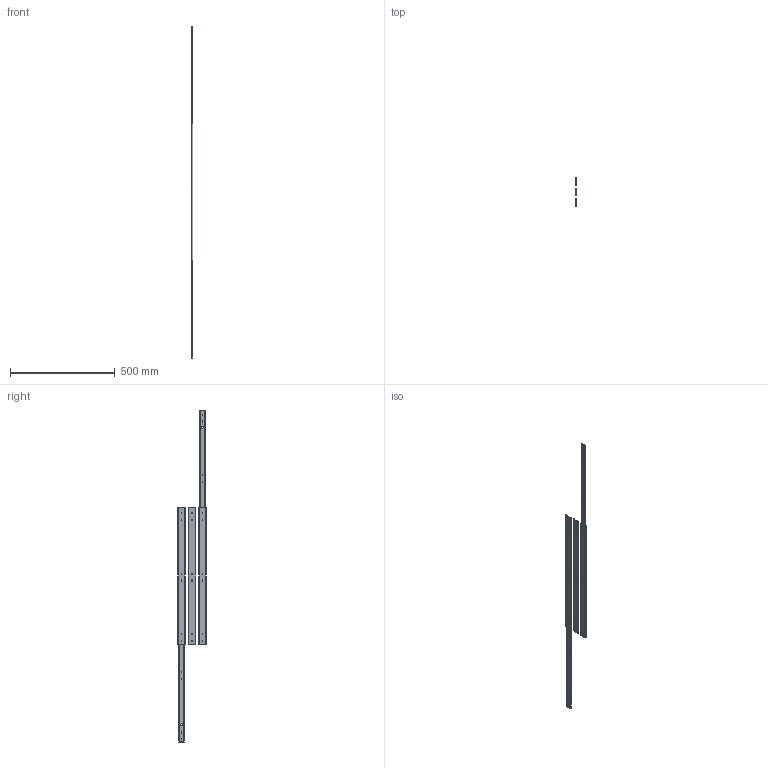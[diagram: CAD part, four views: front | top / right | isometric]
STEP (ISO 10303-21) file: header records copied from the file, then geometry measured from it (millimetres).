
FILE_DESCRIPTION((''),'2;1');
FILE_NAME('D:\01 WORK\DIST\02172A-Drawings for website\2026\DZ2026\STEP\2026-0065 3d open & closed for website.stp','2012-10-03T14:43:34',('jthatch'),(''),'Autodesk Inventor 2012','Autodesk Inventor 2012','');
FILE_SCHEMA(('AUTOMOTIVE_DESIGN { 1 0 10303 214 1 1 1 1 }'));
Length unit declared in the file: millimetre
Products named in the file (3): 2026-0065 3d open & closed for website; 2026-0065 3d Outer member for website; 2026-0060  3d Inner member for website
Assembly tree (6 placements, depth 2):
  2026-0065 3d open & closed for website
    2026-0065 3d Outer member for website  x3
    2026-0060  3d Inner member for website  x3
Bounding box: 9.5 x 135.28 x 1584.8 mm (x, y, z)
Volume: 219502.1 mm3; surface area: 327707.6 mm2
Topology: 6 solids, 6 shells, 216 faces, 615 edges, 411 vertices
Faces by surface type: plane 132, cylinder 84
Full cylindrical faces by diameter (mm): 4.3 x6, 10 x6
Entity records: 2494 total; most frequent: DIRECTION 418, CARTESIAN_POINT 417, ORIENTED_EDGE 400, EDGE_CURVE 200, VECTOR 144, LINE 144, AXIS2_PLACEMENT_3D 137, VERTEX_POINT 136
